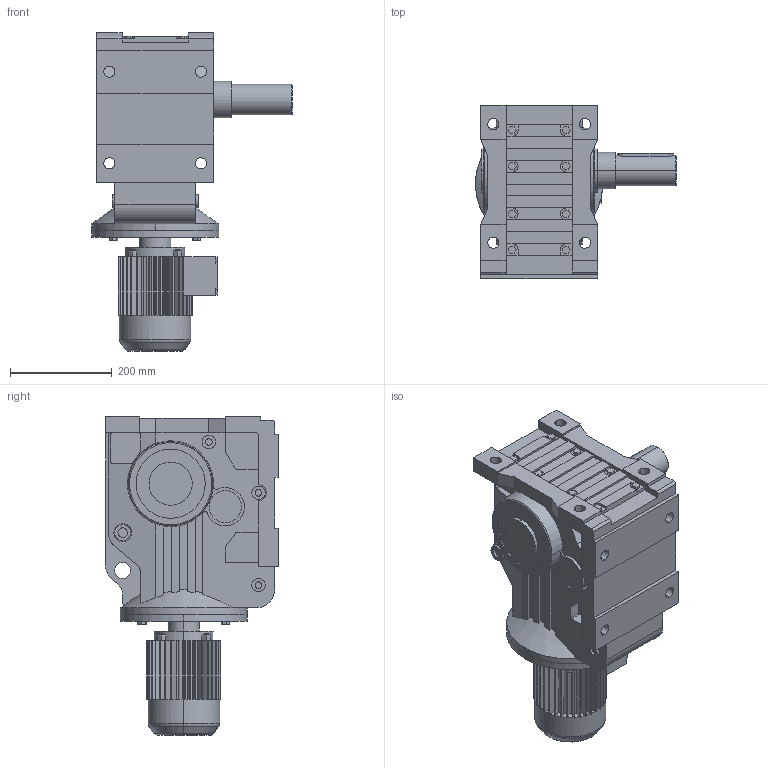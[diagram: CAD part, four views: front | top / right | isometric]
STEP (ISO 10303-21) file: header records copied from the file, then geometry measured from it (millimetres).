
FILE_DESCRIPTION(('Open CASCADE Model'),'2;1');
FILE_NAME('Open CASCADE Shape Model','2021-07-20T12:05:51',('Author'),( 'Open CASCADE'),'Open CASCADE STEP processor 6.3','Open CASCADE 6.3' ,'Unknown');
FILE_SCHEMA(('AUTOMOTIVE_DESIGN_CC2 { 1 2 10303 214 -1 1 5 4 }'));
Length unit declared in the file: millimetre
Products named in the file (4): 1_K87DT80-A; K37‵157_87.step; 萇儂_250-DT80-238-302-145-122.step; す瑩妗陑粣K_87.step
Assembly tree (3 placements, depth 2):
  1_K87DT80-A
    K37‵157_87.step
    萇儂_250-DT80-238-302-145-122.step
    す瑩妗陑粣K_87.step
Bounding box: 395 x 340 x 627 mm (x, y, z)
Volume: 25006190.7 mm3; surface area: 1173398.4 mm2
Topology: 3 solids, 3 shells, 837 faces, 2208 edges, 1434 vertices
Faces by surface type: plane 584, cylinder 231, cone 14, torus 8
Entity records: 57967 total; most frequent: CARTESIAN_POINT 16012, DIRECTION 7229, ORIENTED_EDGE 4412, PCURVE 4412, DEFINITIONAL_REPRESENTATION 4412, LINE 3941, VECTOR 3941, EDGE_CURVE 2206
